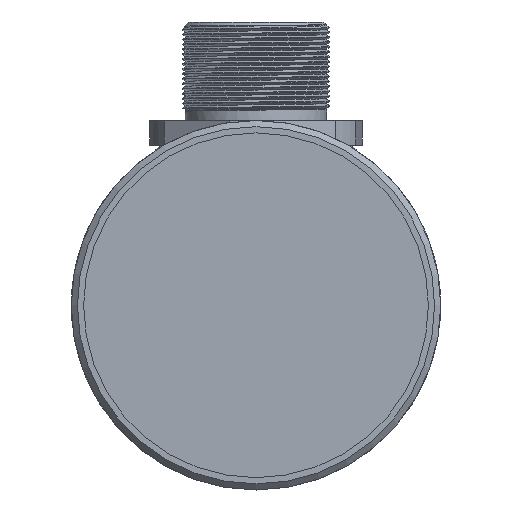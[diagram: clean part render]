
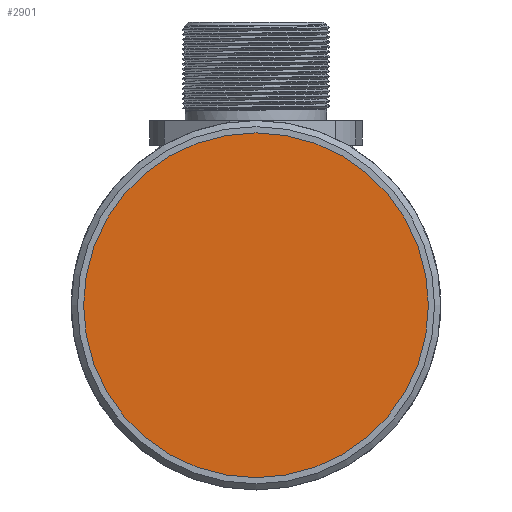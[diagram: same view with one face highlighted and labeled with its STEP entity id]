
A CAD part, left-side view. The second image highlights one B-rep face of the part: STEP entity #2901.
In plain terms, the highlighted planar face has unit normal (-1, 0, 0).
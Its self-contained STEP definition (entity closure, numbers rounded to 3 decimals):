
#949=PLANE('',#3081);
#1012=CIRCLE('',#3079,14.);
#1105=VERTEX_POINT('',#3860);
#1425=EDGE_CURVE('',#1105,#1105,#1012,.T.);
#1781=ORIENTED_EDGE('',*,*,#1425,.T.);
#2468=EDGE_LOOP('',(#1781));
#2685=FACE_BOUND('',#2468,.T.);
#2901=ADVANCED_FACE('',(#2685),#949,.T.);
#3079=AXIS2_PLACEMENT_3D('',#3859,#3305,#3306);
#3081=AXIS2_PLACEMENT_3D('',#3863,#3309,$);
#3305=DIRECTION('',(-1.,0.,0.));
#3306=DIRECTION('',(0.,0.,14.));
#3309=DIRECTION('',(-1.,0.,0.));
#3859=CARTESIAN_POINT('',(1.,0.,0.));
#3860=CARTESIAN_POINT('',(1.,0.,14.));
#3863=CARTESIAN_POINT('',(1.,0.,0.));
